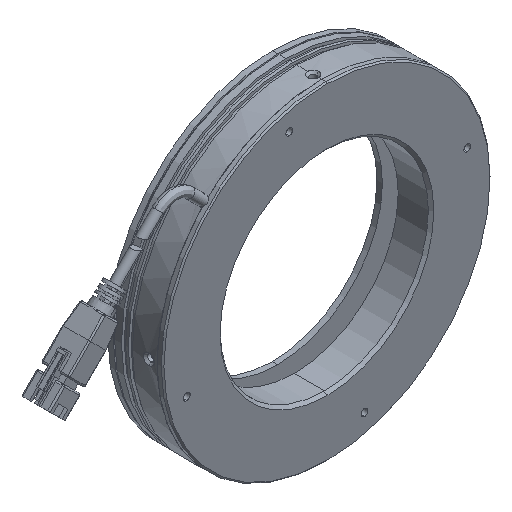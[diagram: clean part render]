
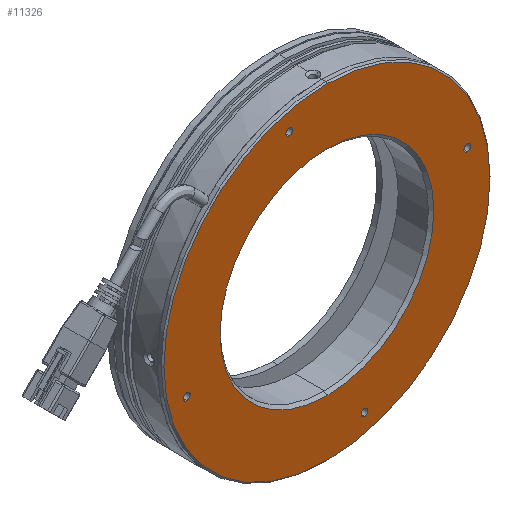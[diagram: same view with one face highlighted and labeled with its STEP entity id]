
A CAD part, isometric view. The second image highlights one B-rep face of the part: STEP entity #11326.
In plain terms, the highlighted planar face has unit normal (0, -1, 0).
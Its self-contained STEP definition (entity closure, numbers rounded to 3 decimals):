
#93 = EDGE_CURVE ( 'NONE', #7473, #4629, #9047, .T. ) ;
#561 = AXIS2_PLACEMENT_3D ( 'NONE', #4107, #10841, #1296 ) ;
#602 = VERTEX_POINT ( 'NONE', #5726 ) ;
#736 = CIRCLE ( 'NONE', #7170, 39. ) ;
#927 = DIRECTION ( 'NONE',  ( 0., -1., 0. ) ) ;
#1098 = CARTESIAN_POINT ( 'NONE',  ( 13.717, 0., -49.944 ) ) ;
#1116 = CARTESIAN_POINT ( 'NONE',  ( 0., 0., 59.5 ) ) ;
#1197 = VERTEX_POINT ( 'NONE', #5842 ) ;
#1289 = FACE_BOUND ( 'NONE', #5936, .T. ) ;
#1296 = DIRECTION ( 'NONE',  ( 0., 0., -1. ) ) ;
#1383 = CARTESIAN_POINT ( 'NONE',  ( 51.194, 0., 13.717 ) ) ;
#1403 = DIRECTION ( 'NONE',  ( 0., 1., 0. ) ) ;
#1420 = AXIS2_PLACEMENT_3D ( 'NONE', #12175, #2377, #6205 ) ;
#1470 = CARTESIAN_POINT ( 'NONE',  ( -39., 0., 0. ) ) ;
#1492 = VERTEX_POINT ( 'NONE', #1098 ) ;
#1855 = DIRECTION ( 'NONE',  ( 0., 1., 0. ) ) ;
#1860 = CIRCLE ( 'NONE', #5081, 1.25 ) ;
#1903 = VERTEX_POINT ( 'NONE', #3892 ) ;
#1938 = DIRECTION ( 'NONE',  ( 0., 0., -1. ) ) ;
#1986 = AXIS2_PLACEMENT_3D ( 'NONE', #4218, #1403, #7113 ) ;
#2018 = EDGE_CURVE ( 'NONE', #10820, #1197, #8016, .T. ) ;
#2377 = DIRECTION ( 'NONE',  ( 0., -1., 0. ) ) ;
#2704 = EDGE_CURVE ( 'NONE', #10136, #1492, #5917, .T. ) ;
#2790 = DIRECTION ( 'NONE',  ( 0., -1., 0. ) ) ;
#3058 = EDGE_LOOP ( 'NONE', ( #9546, #6179 ) ) ;
#3319 = EDGE_CURVE ( 'NONE', #9320, #8145, #1860, .T. ) ;
#3342 = DIRECTION ( 'NONE',  ( 0., 1., 0. ) ) ;
#3539 = EDGE_CURVE ( 'NONE', #602, #1903, #736, .T. ) ;
#3560 = AXIS2_PLACEMENT_3D ( 'NONE', #8918, #5028, #5890 ) ;
#3610 = VERTEX_POINT ( 'NONE', #9368 ) ;
#3620 = DIRECTION ( 'NONE',  ( 0., -1., 0. ) ) ;
#3622 = ORIENTED_EDGE ( 'NONE', *, *, #93, .F. ) ;
#3658 = ORIENTED_EDGE ( 'NONE', *, *, #4619, .F. ) ;
#3701 = ORIENTED_EDGE ( 'NONE', *, *, #2018, .F. ) ;
#3892 = CARTESIAN_POINT ( 'NONE',  ( 0., 0., -39. ) ) ;
#4107 = CARTESIAN_POINT ( 'NONE',  ( -51.194, 0., -13.717 ) ) ;
#4110 = EDGE_CURVE ( 'NONE', #1903, #602, #4362, .T. ) ;
#4218 = CARTESIAN_POINT ( 'NONE',  ( 0., 0., 0. ) ) ;
#4329 = EDGE_CURVE ( 'NONE', #3610, #5943, #12387, .T. ) ;
#4362 = CIRCLE ( 'NONE', #6366, 39. ) ;
#4560 = AXIS2_PLACEMENT_3D ( 'NONE', #11289, #3620, #6579 ) ;
#4619 = EDGE_CURVE ( 'NONE', #4629, #7473, #12011, .T. ) ;
#4620 = EDGE_CURVE ( 'NONE', #1492, #10136, #8993, .T. ) ;
#4629 = VERTEX_POINT ( 'NONE', #9731 ) ;
#5023 = EDGE_LOOP ( 'NONE', ( #5824, #5736 ) ) ;
#5028 = DIRECTION ( 'NONE',  ( 0., -1., 0. ) ) ;
#5081 = AXIS2_PLACEMENT_3D ( 'NONE', #7161, #2790, #6624 ) ;
#5113 = FACE_BOUND ( 'NONE', #5023, .T. ) ;
#5230 = FACE_OUTER_BOUND ( 'NONE', #9924, .T. ) ;
#5242 = CARTESIAN_POINT ( 'NONE',  ( 0., 0., 0. ) ) ;
#5291 = DIRECTION ( 'NONE',  ( 0., -1., 0. ) ) ;
#5351 = EDGE_CURVE ( 'NONE', #8145, #9320, #10617, .T. ) ;
#5486 = CARTESIAN_POINT ( 'NONE',  ( -51.194, 0., -12.467 ) ) ;
#5726 = CARTESIAN_POINT ( 'NONE',  ( 0., 0., 39. ) ) ;
#5736 = ORIENTED_EDGE ( 'NONE', *, *, #5351, .F. ) ;
#5750 = EDGE_CURVE ( 'NONE', #1197, #10820, #11014, .T. ) ;
#5824 = ORIENTED_EDGE ( 'NONE', *, *, #3319, .F. ) ;
#5842 = CARTESIAN_POINT ( 'NONE',  ( 0., 0., -59.5 ) ) ;
#5890 = DIRECTION ( 'NONE',  ( 0., 0., -1. ) ) ;
#5917 = CIRCLE ( 'NONE', #7335, 1.25 ) ;
#5936 = EDGE_LOOP ( 'NONE', ( #9512, #10438 ) ) ;
#5943 = VERTEX_POINT ( 'NONE', #5486 ) ;
#6087 = AXIS2_PLACEMENT_3D ( 'NONE', #1470, #5291, #10885 ) ;
#6179 = ORIENTED_EDGE ( 'NONE', *, *, #3539, .T. ) ;
#6205 = DIRECTION ( 'NONE',  ( 0., 0., -1. ) ) ;
#6366 = AXIS2_PLACEMENT_3D ( 'NONE', #6690, #1855, #6758 ) ;
#6514 = ORIENTED_EDGE ( 'NONE', *, *, #4620, .F. ) ;
#6579 = DIRECTION ( 'NONE',  ( 0., 0., -1. ) ) ;
#6624 = DIRECTION ( 'NONE',  ( 0., 0., -1. ) ) ;
#6690 = CARTESIAN_POINT ( 'NONE',  ( 0., 0., 0. ) ) ;
#6755 = CARTESIAN_POINT ( 'NONE',  ( 51.194, 0., 14.967 ) ) ;
#6758 = DIRECTION ( 'NONE',  ( 0., 0., 1. ) ) ;
#6778 = CARTESIAN_POINT ( 'NONE',  ( -13.717, 0., 51.194 ) ) ;
#6940 = CARTESIAN_POINT ( 'NONE',  ( 13.717, 0., -52.444 ) ) ;
#6978 = DIRECTION ( 'NONE',  ( 0., 0., -1. ) ) ;
#7113 = DIRECTION ( 'NONE',  ( 0., 0., 1. ) ) ;
#7161 = CARTESIAN_POINT ( 'NONE',  ( 51.194, 0., 13.717 ) ) ;
#7170 = AXIS2_PLACEMENT_3D ( 'NONE', #11962, #3342, #7184 ) ;
#7184 = DIRECTION ( 'NONE',  ( 0., 0., 1. ) ) ;
#7262 = DIRECTION ( 'NONE',  ( 0., 0., 1. ) ) ;
#7335 = AXIS2_PLACEMENT_3D ( 'NONE', #7648, #927, #12427 ) ;
#7404 = ORIENTED_EDGE ( 'NONE', *, *, #2704, .F. ) ;
#7473 = VERTEX_POINT ( 'NONE', #9876 ) ;
#7569 = ORIENTED_EDGE ( 'NONE', *, *, #5750, .F. ) ;
#7648 = CARTESIAN_POINT ( 'NONE',  ( 13.717, 0., -51.194 ) ) ;
#7919 = DIRECTION ( 'NONE',  ( 0., -1., 0. ) ) ;
#7953 = PLANE ( 'NONE',  #6087 ) ;
#8016 = CIRCLE ( 'NONE', #1986, 59.5 ) ;
#8073 = FACE_BOUND ( 'NONE', #11666, .T. ) ;
#8145 = VERTEX_POINT ( 'NONE', #6755 ) ;
#8378 = AXIS2_PLACEMENT_3D ( 'NONE', #6778, #10544, #1938 ) ;
#8823 = AXIS2_PLACEMENT_3D ( 'NONE', #1383, #7919, #6978 ) ;
#8918 = CARTESIAN_POINT ( 'NONE',  ( 13.717, 0., -51.194 ) ) ;
#8953 = FACE_BOUND ( 'NONE', #3058, .T. ) ;
#8993 = CIRCLE ( 'NONE', #3560, 1.25 ) ;
#9047 = CIRCLE ( 'NONE', #1420, 1.25 ) ;
#9320 = VERTEX_POINT ( 'NONE', #10168 ) ;
#9368 = CARTESIAN_POINT ( 'NONE',  ( -51.194, 0., -14.967 ) ) ;
#9512 = ORIENTED_EDGE ( 'NONE', *, *, #4329, .F. ) ;
#9546 = ORIENTED_EDGE ( 'NONE', *, *, #4110, .T. ) ;
#9559 = EDGE_LOOP ( 'NONE', ( #3658, #3622 ) ) ;
#9731 = CARTESIAN_POINT ( 'NONE',  ( -13.717, 0., 49.944 ) ) ;
#9829 = AXIS2_PLACEMENT_3D ( 'NONE', #5242, #12104, #7262 ) ;
#9876 = CARTESIAN_POINT ( 'NONE',  ( -13.717, 0., 52.444 ) ) ;
#9889 = FACE_BOUND ( 'NONE', #9559, .T. ) ;
#9924 = EDGE_LOOP ( 'NONE', ( #3701, #7569 ) ) ;
#9983 = CIRCLE ( 'NONE', #4560, 1.25 ) ;
#10136 = VERTEX_POINT ( 'NONE', #6940 ) ;
#10168 = CARTESIAN_POINT ( 'NONE',  ( 51.194, 0., 12.467 ) ) ;
#10438 = ORIENTED_EDGE ( 'NONE', *, *, #10629, .F. ) ;
#10544 = DIRECTION ( 'NONE',  ( 0., -1., 0. ) ) ;
#10617 = CIRCLE ( 'NONE', #8823, 1.25 ) ;
#10629 = EDGE_CURVE ( 'NONE', #5943, #3610, #9983, .T. ) ;
#10820 = VERTEX_POINT ( 'NONE', #1116 ) ;
#10841 = DIRECTION ( 'NONE',  ( 0., -1., 0. ) ) ;
#10885 = DIRECTION ( 'NONE',  ( 0., 0., -1. ) ) ;
#11014 = CIRCLE ( 'NONE', #9829, 59.5 ) ;
#11289 = CARTESIAN_POINT ( 'NONE',  ( -51.194, 0., -13.717 ) ) ;
#11326 = ADVANCED_FACE ( 'NONE', ( #9889, #1289, #8073, #5113, #8953, #5230 ), #7953, .T. ) ;
#11666 = EDGE_LOOP ( 'NONE', ( #7404, #6514 ) ) ;
#11962 = CARTESIAN_POINT ( 'NONE',  ( 0., 0., 0. ) ) ;
#12011 = CIRCLE ( 'NONE', #8378, 1.25 ) ;
#12104 = DIRECTION ( 'NONE',  ( 0., 1., 0. ) ) ;
#12175 = CARTESIAN_POINT ( 'NONE',  ( -13.717, 0., 51.194 ) ) ;
#12387 = CIRCLE ( 'NONE', #561, 1.25 ) ;
#12427 = DIRECTION ( 'NONE',  ( 0., 0., -1. ) ) ;
